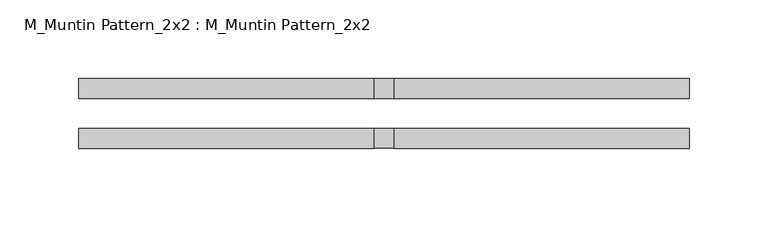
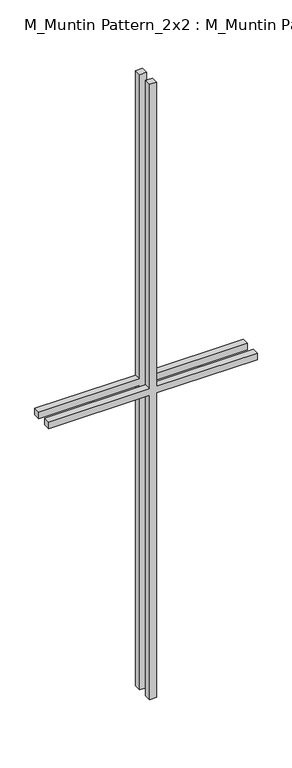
"""IFC4 building model written with IfcOpenShell, lengths in millimetres: proxy geometry, M_Muntin Pattern_2x2 : M_Muntin Pattern_2x2."""

from ifc_helpers import new_model, si_unit, frame, origin, place, context, project, spatial, polyline, outline, extrude, source, transform, mapped, element, save


def m_muntin_pattern_2x2_m_muntin_pattern_2x2_a591b470(model_context):
    return source(origin(), model_context, "Body", "SweptSolid", [
        extrude(outline(polyline([(611.5, -6.35), (611.5, -194.2375), (598.8, -194.2375), (598.8, -6.35), (0.0, -6.35), (0.0, 6.35), (598.8, 6.35), (598.8, 194.2375), (611.5, 194.2375), (611.5, 6.35), (1210.3, 6.35), (1210.3, -6.35), (611.5, -6.35)])), frame((0.0, -22.225, 0.0), z_axis=(0.0, 1.0, 0.0), x_axis=(0.0, 0.0, 1.0)), (0.0, 0.0, 1.0), 12.7),
        extrude(outline(polyline([(611.5, -6.35), (611.5, -194.2375), (598.8, -194.2375), (598.8, -6.35), (0.0, -6.35), (0.0, 6.35), (598.8, 6.35), (598.8, 194.2375), (611.5, 194.2375), (611.5, 6.35), (1210.3, 6.35), (1210.3, -6.35), (611.5, -6.35)])), frame((0.0, 9.525, 0.0), z_axis=(0.0, 1.0, 0.0), x_axis=(0.0, 0.0, 1.0)), (0.0, 0.0, 1.0), 12.7),
    ])


if __name__ == "__main__":
    model = new_model("IFC4")
    model_context = context("Model", 3, world=origin())
    ifc_project = project(units=[si_unit("LENGTHUNIT", "METRE", prefix="MILLI")], contexts=[model_context])
    site = spatial("IfcSite", under=ifc_project)
    building = spatial("IfcBuilding", under=site)
    placement = place(None, origin())
    m_muntin_pattern_2x2_m_muntin_pattern_2x2_shape = m_muntin_pattern_2x2_m_muntin_pattern_2x2_a591b470(model_context)
    element("IfcBuildingElementProxy", 1, Name="M_Muntin Pattern_2x2 : M_Muntin Pattern_2x2", ObjectType="M_Muntin Pattern_2x2 : M_Muntin Pattern_2x2", at=placement, inside=building, context=model_context, shape_type="MappedRepresentation", body=[
        mapped(m_muntin_pattern_2x2_m_muntin_pattern_2x2_shape, transform((0.0, 0.0, 0.0), x_axis=(1.0, 0.0, 0.0), y_axis=(0.0, 1.0, 0.0), z_axis=(0.0, 0.0, 1.0))),
    ])
    save(model, "model.ifc")
